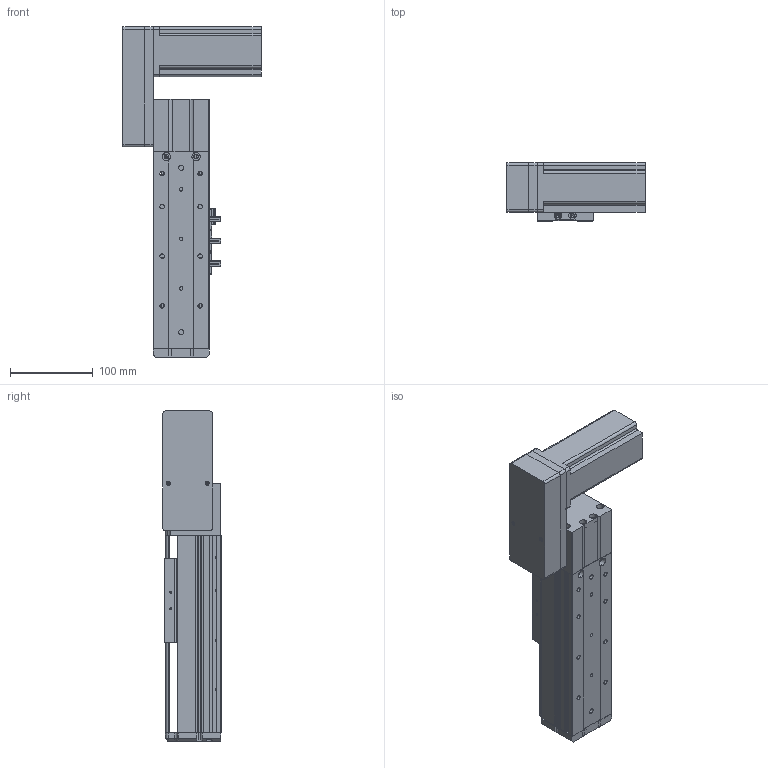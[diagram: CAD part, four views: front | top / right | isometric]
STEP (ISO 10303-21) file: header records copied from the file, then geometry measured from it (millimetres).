
FILE_DESCRIPTION (( 'STEP AP214' ), '1' );
FILE_NAME ('KSD68BS-S50-MRB-CM.STEP', '2019-08-22T05:40:31', ( '微软用户' ), ( '微软中国' ), 'SwSTEP 2.0', 'SolidWorks 2014', '' );
FILE_SCHEMA (( 'AUTOMOTIVE_DESIGN' ));
Length unit declared in the file: millimetre
Products named in the file (11): 悵誘欶奻狟殏; 68宽马达安装板连板上折同步带; 68宽单导轨半封闭同步带主动轮座右; 68单导轨同步带半封闭端板; KSD68BS 50俴最裔啣圉猾敕; 覜茼え68遵圉猾敕; KSD68BS半封闭同步带传动导轨座; U倰嫖萇EEㄜSX672; 台达ECMA－C20604AS伺服电机（400W); KSD68BS 50俴最菁啣圉猾敕; KSD68BS-S50-MRB-CM
Assembly tree (12 placements, depth 2):
  KSD68BS-S50-MRB-CM
    KSD68BS 50俴最菁啣圉猾敕
    台达ECMA－C20604AS伺服电机（400W)
    U倰嫖萇EEㄜSX672  x3
    KSD68BS半封闭同步带传动导轨座
    覜茼え68遵圉猾敕
    KSD68BS 50俴最裔啣圉猾敕
    68单导轨同步带半封闭端板
    68宽单导轨半封闭同步带主动轮座右
    68宽马达安装板连板上折同步带
    悵誘欶奻狟殏
Bounding box: 167.2 x 70.5 x 399.5 mm (x, y, z)
Volume: 1171344.8 mm3; surface area: 324959.1 mm2
Topology: 13 solids, 13 shells, 1198 faces, 3366 edges, 2182 vertices
Faces by surface type: plane 559, cylinder 556, cone 83
Entity records: 41073 total; most frequent: CARTESIAN_POINT 7290, DIRECTION 5552, ORIENTED_EDGE 5484, EDGE_CURVE 2742, AXIS2_PLACEMENT_3D 1972, VERTEX_POINT 1806, LINE 1608, VECTOR 1608
